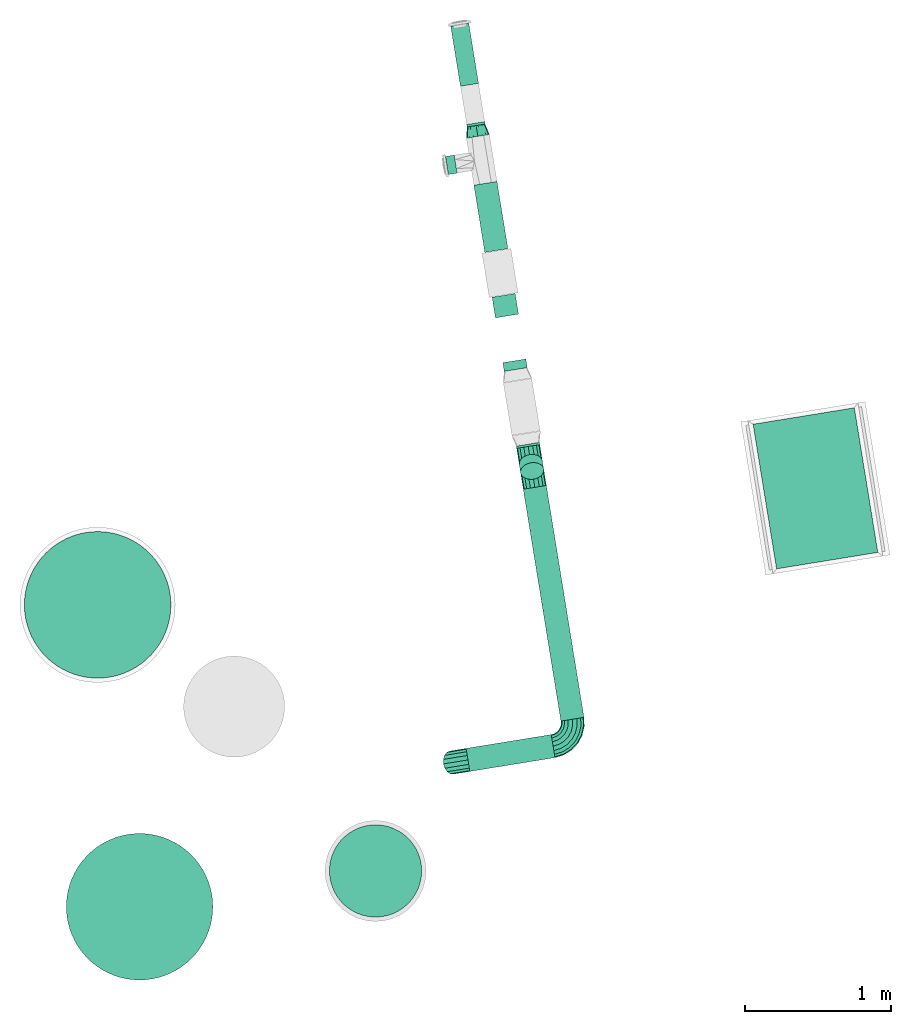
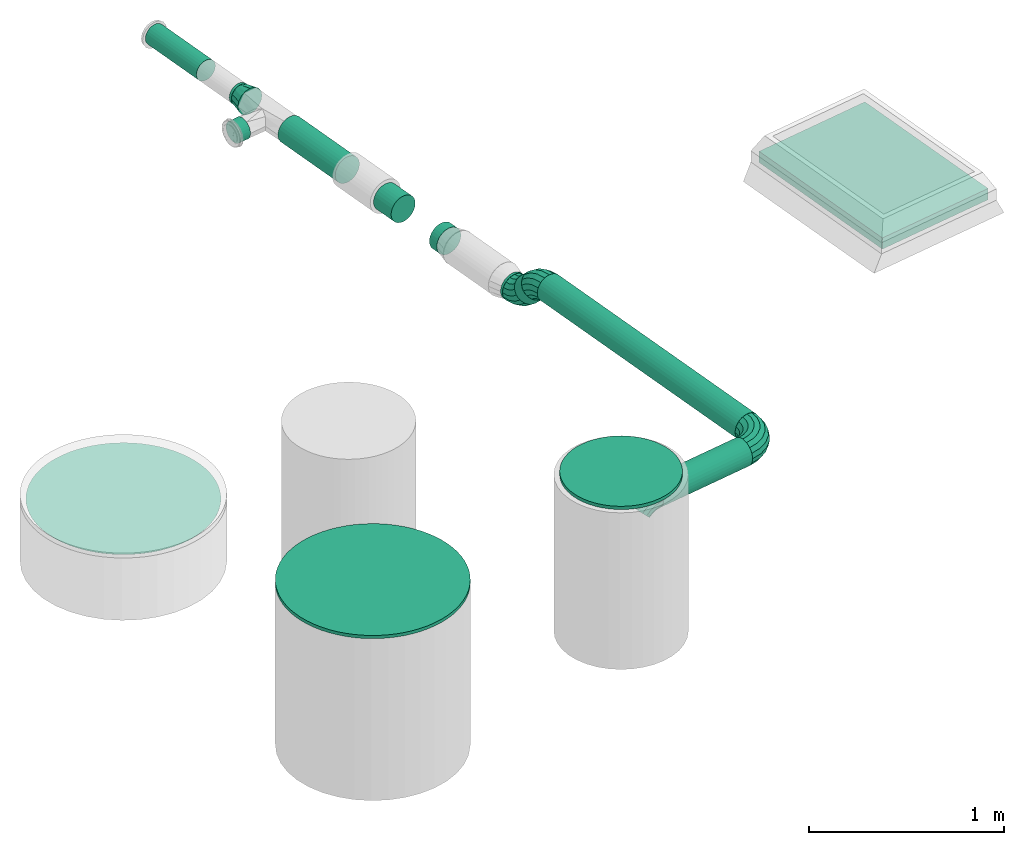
# One storey, part 3 of 6: 11 flow segments, 8 flow fittings.
"""IFC2X3 building model written with IfcOpenShell, lengths in millimetres."""

from ifc_helpers import new_model, entity, si_unit, converted_unit, derived_unit, direction, frame, frame_2d, origin, origin_with_axes, origin_2d_with_axis, place, context, subcontext, project, spatial, rectangle, circle, extrude, faceted_brep, source, transform, mapped, material, type_object, element, save


model = new_model("IFC2X3")

# Units and contexts
plan_context = context("Plan", 3, precision=1e-05, world=origin_with_axes())
model_context = context("Model", 3, precision=0.01, world=origin(), true_north=direction((6.12323399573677e-17, 1.0)))
body_context = subcontext(model_context, "Body", "Model", "MODEL_VIEW")
ifc_project = project(units=[converted_unit("PLANEANGLEUNIT", "DEGREE", entity("IfcPositiveLengthMeasure", 0.0174532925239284), si_unit("PLANEANGLEUNIT", "RADIAN"), dimensions=[0, 0, 0, 0, 0, 0, 0]), si_unit("AREAUNIT", "SQUARE_METRE"), si_unit("LENGTHUNIT", "METRE", prefix="MILLI"), si_unit("MASSUNIT", "GRAM", prefix="KILO"), si_unit("POWERUNIT", "WATT"), si_unit("PRESSUREUNIT", "PASCAL", prefix="KILO"), si_unit("FORCEUNIT", "NEWTON", prefix="KILO"), si_unit("ELECTRICVOLTAGEUNIT", "VOLT"), si_unit("ELECTRICCURRENTUNIT", "AMPERE"), si_unit("THERMODYNAMICTEMPERATUREUNIT", "DEGREE_CELSIUS"), si_unit("TIMEUNIT", "SECOND"), si_unit("VOLUMEUNIT", "CUBIC_METRE"), derived_unit("LINEARVELOCITYUNIT", [(si_unit("LENGTHUNIT", "METRE"), 1), (si_unit("TIMEUNIT", "SECOND"), -1)]), derived_unit("VOLUMETRICFLOWRATEUNIT", [(si_unit("VOLUMEUNIT", "CUBIC_METRE"), 1), (si_unit("TIMEUNIT", "SECOND"), -1)]), derived_unit("THERMALTRANSMITTANCEUNIT", [(si_unit("POWERUNIT", "WATT"), 1), (si_unit("THERMODYNAMICTEMPERATUREUNIT", "KELVIN"), -1), (si_unit("AREAUNIT", "SQUARE_METRE"), -1)]), derived_unit("SOUNDPRESSUREUNIT", [(si_unit("PRESSUREUNIT", "PASCAL"), 1)])], contexts=[model_context, plan_context])

# Site, building, storey
site_placement = place(None, frame((-0.00071070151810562, 0.00438415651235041, 0.0), z_axis=(0.0, 0.0, 1.0), x_axis=(-0.160236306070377, 0.987078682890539, 0.0)))
site = spatial("IfcSite", under=ifc_project, at=site_placement, Name="Default", CompositionType="ELEMENT")
building_placement = place(site_placement, origin_with_axes())
building = spatial("IfcBuilding", under=site, at=building_placement, CompositionType="ELEMENT")
storey_placement = place(building_placement, frame((0.0, 0.0, 55630.0), z_axis=(0.0, 0.0, 1.0), x_axis=(1.0, 0.0, 0.0)))
storey = spatial("IfcBuildingStorey", under=building, at=storey_placement, Name="Nivå E", CompositionType="ELEMENT", Elevation=55630.0)

# Flow fittings
ifc_material_1 = material(Name="DF_Material1")
duct_fitting_type_1 = type_object("IfcDuctFittingType", Name="Endcap 5521:Lindab EPF", PredefinedType="NOTDEFINED", material=ifc_material_1)
shared_shape_1 = source(origin(), body_context, "Body", "SweptSolid", [
    extrude(circle(Radius=500.000000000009, at=frame_2d((-1.86584362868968e-12, -1.83319390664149e-12), x_axis=(1.0, 0.0))), frame((0.0, 0.0, 0.0), z_axis=(1.0, 0.0, 0.0), x_axis=(0.0, 1.0, 0.0)), (0.0, 0.0, 1.0), 0.800000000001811),
])
flow_fitting_1_placement = place(storey_placement, frame((765967.619644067, -501688.383412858, 2760.0), z_axis=(0.0, 1.0, 0.0), x_axis=(0.0, 0.0, 1.0)))
element("IfcFlowFitting", 1, at=flow_fitting_1_placement, inside=storey, type_object=duct_fitting_type_1, material=ifc_material_1, Name="Endcap 5521:Lindab EPF", ObjectType="Endcap 5521:Lindab EPF", context=body_context, shape_type="MappedRepresentation", body=[
    mapped(shared_shape_1, transform((0.0, 0.0, 0.0), scale=1.0)),
])
ifc_material_2 = material(Name="<Unnamed>")
duct_fitting_type_2 = type_object("IfcDuctFittingType", Name="magicirc_joint_1:magicirc_joint_001", PredefinedType="NOTDEFINED", material=ifc_material_2)
shared_shape_2 = source(origin(), body_context, "Body", "SweptSolid", [
    extrude(circle(Radius=315.0, at=frame_2d((1.34514652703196e-15, -1.48811324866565e-12), x_axis=(1.0, 0.0))), frame((0.0, 0.0, 0.0), z_axis=(1.0, 0.0, 0.0), x_axis=(0.0, 1.0, 0.0)), (0.0, 0.0, 1.0), 20.0000000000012),
])
flow_fitting_2_placement = place(storey_placement, frame((763870.86087582, -503270.00861507, 3350.0), z_axis=(0.0, 1.0, 0.0), x_axis=(0.0, 0.0, 1.0)))
element("IfcFlowFitting", 2, at=flow_fitting_2_placement, inside=storey, type_object=duct_fitting_type_2, material=ifc_material_2, Name="magicirc_joint_1:magicirc_joint_001", ObjectType="magicirc_joint_1:magicirc_joint_001", context=body_context, shape_type="MappedRepresentation", body=[
    mapped(shared_shape_2, transform((0.0, 0.0, 0.0), scale=1.0)),
])
duct_fitting_type_3 = type_object("IfcDuctFittingType", Name="magicirc_joint_1:magicirc_joint_001", PredefinedType="NOTDEFINED", material=ifc_material_2)
shared_shape_3 = source(origin(), body_context, "Body", "SweptSolid", [
    extrude(circle(Radius=500.0, at=frame_2d((1.34514652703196e-15, -2.47310682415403e-12), x_axis=(1.0, 0.0))), frame((0.0, 0.0, 0.0), z_axis=(1.0, 0.0, 0.0), x_axis=(0.0, 1.0, 0.0)), (0.0, 0.0, 1.0), 20.0000000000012),
])
flow_fitting_3_placement = place(storey_placement, frame((763887.620029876, -501640.72759467, 3383.69895843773), z_axis=(-3.92134000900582e-17, -0.999999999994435, 3.33613595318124e-06), x_axis=(-2.16724724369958e-05, 3.33613595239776e-06, 0.999999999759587)))
element("IfcFlowFitting", 3, at=flow_fitting_3_placement, inside=storey, type_object=duct_fitting_type_3, material=ifc_material_2, Name="magicirc_joint_1:magicirc_joint_001", ObjectType="magicirc_joint_1:magicirc_joint_001", context=body_context, shape_type="MappedRepresentation", body=[
    mapped(shared_shape_3, transform((0.0, 0.0, 0.0), scale=1.0)),
])
duct_fitting_type_4 = type_object("IfcDuctFittingType", Name="magicirc_elbow_full_radius_1:magicirc_elbow_full_radius_001", PredefinedType="NOTDEFINED", material=ifc_material_2)
shared_shape_4 = source(origin(), body_context, "Body", "Brep", [
    faceted_brep([(-4.15759915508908, -71.8221983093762, 0.0), (-5.73371329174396, -65.9400602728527, 30.6146745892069), (-66.274169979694, -73.910362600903, 30.6146745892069), (-66.274169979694, -80.0, 0.0), (-10.2221066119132, -49.1891483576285, 56.5685424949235), (-66.274169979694, -56.568542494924, 56.5685424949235), (-16.9394619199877, -24.119637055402, 73.9103626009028), (-66.2741699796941, -30.6146745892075, 73.9103626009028), (-24.8631227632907, 5.45186779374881, 80.0), (-66.2741699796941, 0.0, 80.0), (-32.7867836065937, 35.0233726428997, 73.910362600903), (-66.2741699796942, 30.6146745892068, 73.910362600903), (-39.5041389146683, 60.0928839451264, 56.568542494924), (-66.2741699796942, 56.5685424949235, 56.568542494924), (-43.9925322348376, 76.8437958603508, 30.6146745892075), (-66.2741699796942, 73.9103626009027, 30.6146745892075), (-45.5686463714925, 82.7259338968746, 0.0), (-66.2741699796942, 80.0, 0.0), (-43.9925322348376, 76.8437958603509, -30.6146745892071), (-66.2741699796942, 73.9103626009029, -30.6146745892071), (-39.5041389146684, 60.0928839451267, -56.5685424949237), (-66.2741699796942, 56.5685424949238, -56.5685424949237), (-32.7867836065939, 35.0233726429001, -73.9103626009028), (-66.2741699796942, 30.6146745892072, -73.9103626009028), (-24.8631227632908, 5.45186779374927, -80.0), (-66.2741699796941, 0.0, -80.0), (-16.9394619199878, -24.1196370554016, -73.9103626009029), (-66.2741699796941, -30.614674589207, -73.9103626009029), (-10.2221066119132, -49.1891483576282, -56.5685424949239), (-66.274169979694, -56.5685424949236, -56.5685424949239), (-5.73371329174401, -65.9400602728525, -30.6146745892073), (-66.274169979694, -73.9103626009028, -30.6146745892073), (53.7258300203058, -47.846096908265, 0.0), (50.6810113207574, -42.5723162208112, 30.6146745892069), (42.0101012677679, -27.5538594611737, 56.5685424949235), (29.0331673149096, -5.07715052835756, 73.9103626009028), (13.725830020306, 21.4359353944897, 80.0), (-1.58150727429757, 47.949021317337, 73.910362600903), (-14.5584412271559, 70.4257302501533, 56.568542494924), (-23.2293512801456, 85.444187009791, 30.6146745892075), (-26.2741699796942, 90.717967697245, 0.0), (-23.2293512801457, 85.4441870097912, -30.6146745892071), (-14.5584412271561, 70.4257302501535, -56.5685424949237), (-1.58150727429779, 47.9490213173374, -73.9103626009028), (13.7258300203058, 21.4359353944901, -80.0), (29.0331673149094, -5.07715052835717, -73.9103626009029), (42.0101012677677, -27.5538594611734, -56.5685424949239), (50.6810113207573, -42.5723162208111, -30.6146745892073), (103.431457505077, -9.70562748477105, 0.0), (99.1254336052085, -5.3996035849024, 30.6146745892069), (86.8629150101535, 6.86291501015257, 56.5685424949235), (68.5107590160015, 25.2150710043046, 73.9103626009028), (46.8629150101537, 46.8629150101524, 80.0), (25.2150710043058, 68.5107590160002, 73.910362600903), (6.86291501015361, 86.8629150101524, 56.568542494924), (-5.39960358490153, 99.1254336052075, 30.6146745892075), (-9.70562748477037, 103.431457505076, 0.0), (-5.39960358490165, 99.1254336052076, -30.6146745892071), (6.86291501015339, 86.8629150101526, -56.5685424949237), (25.2150710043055, 68.5107590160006, -73.9103626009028), (46.8629150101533, 46.8629150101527, -80.0), (68.5107590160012, 25.2150710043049, -73.9103626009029), (86.8629150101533, 6.86291501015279, -56.5685424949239), (99.1254336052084, -5.39960358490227, -30.6146745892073)], [[[0, 1, 2, 3]], [[1, 4, 5, 2]], [[4, 6, 7, 5]], [[6, 8, 9, 7]], [[8, 10, 11, 9]], [[10, 12, 13, 11]], [[12, 14, 15, 13]], [[14, 16, 17, 15]], [[16, 18, 19, 17]], [[18, 20, 21, 19]], [[20, 22, 23, 21]], [[22, 24, 25, 23]], [[24, 26, 27, 25]], [[26, 28, 29, 27]], [[28, 30, 31, 29]], [[30, 0, 3, 31]], [[32, 33, 1, 0]], [[33, 34, 4, 1]], [[34, 35, 6, 4]], [[35, 36, 8, 6]], [[36, 37, 10, 8]], [[37, 38, 12, 10]], [[38, 39, 14, 12]], [[39, 40, 16, 14]], [[40, 41, 18, 16]], [[41, 42, 20, 18]], [[42, 43, 22, 20]], [[43, 44, 24, 22]], [[44, 45, 26, 24]], [[45, 46, 28, 26]], [[46, 47, 30, 28]], [[47, 32, 0, 30]], [[48, 49, 33, 32]], [[49, 50, 34, 33]], [[50, 51, 35, 34]], [[51, 52, 36, 35]], [[52, 53, 37, 36]], [[53, 54, 38, 37]], [[54, 55, 39, 38]], [[55, 56, 40, 39]], [[56, 57, 41, 40]], [[57, 58, 42, 41]], [[58, 59, 43, 42]], [[59, 60, 44, 43]], [[60, 61, 45, 44]], [[61, 62, 46, 45]], [[62, 63, 47, 46]], [[63, 48, 32, 47]], [[3, 2, 5, 7, 9, 11, 13, 15, 17, 19, 21, 23, 25, 27, 29, 31]], [[63, 62, 61, 60, 59, 58, 57, 56, 55, 54, 53, 52, 51, 50, 49, 48]]]),
])
for number, where, z_axis, x_axis, name in (
    (4, (766497.619641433, -504762.771937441, 2400.0), (-1.56033116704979e-08, 1.0, -1.56033116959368e-08), (-1.0, -1.56033116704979e-08, 0.0), "magicirc_elbow_full_radius_1:magicirc_elbow_full_radius_001"),
    (5, (766347.619641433, -504762.77193699, 2550.0), (-2.94392336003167e-17, -1.0, 9.81307786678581e-18), (-0.707106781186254, 2.77555756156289e-17, 0.707106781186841), "magicirc_elbow_full_radius_1:magicirc_elbow_full_radius_001"),
    (6, (764517.619638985, -503947.771932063, 2550.0), (-1.0, 0.0, 0.0), (0.0, 1.0, 0.0), "magicirc_elbow_full_radius_1:magicirc_elbow_full_radius_001"),
):
    element("IfcFlowFitting", number, at=place(storey_placement, frame(where, z_axis=z_axis, x_axis=x_axis)), inside=storey, type_object=duct_fitting_type_4, material=ifc_material_2, Name=name, ObjectType="magicirc_elbow_full_radius_1:magicirc_elbow_full_radius_001", context=body_context, shape_type="MappedRepresentation", body=[
        mapped(shared_shape_4, transform((0.0, 0.0, 0.0), scale=1.0)),
    ])
duct_fitting_type_5 = type_object("IfcDuctFittingType", Name="magicirc_elbow_full_radius_1:magicirc_elbow_full_radius_001", PredefinedType="NOTDEFINED", material=ifc_material_2)
shared_shape_5 = source(origin(), body_context, "Body", "Brep", [
    faceted_brep([(-97.8834291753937, -71.8221983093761, 0.0), (-99.4595433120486, -65.9400602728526, 30.6146745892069), (-160.0, -73.910362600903, 30.6146745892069), (-160.0, -80.0, 0.0), (-103.947936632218, -49.1891483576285, 56.5685424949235), (-160.0, -56.568542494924, 56.5685424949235), (-110.665291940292, -24.119637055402, 73.9103626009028), (-160.0, -30.6146745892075, 73.9103626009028), (-118.588952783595, 5.45186779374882, 80.0), (-160.0, 0.0, 80.0), (-126.512613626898, 35.0233726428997, 73.910362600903), (-160.0, 30.6146745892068, 73.910362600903), (-133.229968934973, 60.0928839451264, 56.568542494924), (-160.0, 56.5685424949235, 56.568542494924), (-137.718362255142, 76.8437958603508, 30.6146745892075), (-160.0, 73.9103626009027, 30.6146745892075), (-139.294476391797, 82.7259338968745, 0.0), (-160.0, 80.0, 0.0), (-137.718362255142, 76.8437958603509, -30.6146745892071), (-160.0, 73.9103626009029, -30.6146745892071), (-133.229968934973, 60.0928839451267, -56.5685424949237), (-160.0, 56.5685424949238, -56.5685424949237), (-126.512613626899, 35.0233726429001, -73.9103626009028), (-160.0, 30.6146745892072, -73.9103626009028), (-118.588952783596, 5.45186779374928, -80.0), (-160.0, 0.0, -80.0), (-110.665291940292, -24.1196370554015, -73.9103626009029), (-160.0, -30.614674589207, -73.9103626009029), (-103.947936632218, -49.1891483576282, -56.5685424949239), (-160.0, -56.5685424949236, -56.5685424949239), (-99.4595433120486, -65.9400602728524, -30.6146745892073), (-160.0, -73.9103626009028, -30.6146745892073), (-40.0, -47.8460969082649, 0.0), (-43.0448186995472, -42.5723162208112, 30.6146745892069), (-51.7157287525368, -27.5538594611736, 56.5685424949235), (-64.6926627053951, -5.0771505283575, 73.9103626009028), (-80.0, 21.4359353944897, 80.0), (-95.3073372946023, 47.949021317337, 73.910362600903), (-108.284271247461, 70.4257302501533, 56.568542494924), (-116.95518130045, 85.444187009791, 30.6146745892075), (-120.0, 90.717967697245, 0.0), (-116.95518130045, 85.4441870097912, -30.6146745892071), (-108.284271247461, 70.4257302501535, -56.5685424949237), (-95.3073372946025, 47.9490213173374, -73.9103626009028), (-80.0, 21.4359353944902, -80.0), (-64.6926627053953, -5.07715052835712, -73.9103626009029), (-51.7157287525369, -27.5538594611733, -56.5685424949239), (-43.0448186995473, -42.572316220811, -30.6146745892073), (9.70562748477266, -9.70562748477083, 0.0), (5.39960358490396, -5.39960358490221, 30.6146745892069), (-6.86291501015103, 6.86291501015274, 56.5685424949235), (-25.2150710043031, 25.2150710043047, 73.9103626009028), (-46.862915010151, 46.8629150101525, 80.0), (-68.5107590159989, 68.5107590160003, 73.910362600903), (-86.8629150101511, 86.8629150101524, 56.568542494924), (-99.1254336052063, 99.1254336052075, 30.6146745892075), (-103.431457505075, 103.431457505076, 0.0), (-99.1254336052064, 99.1254336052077, -30.6146745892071), (-86.8629150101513, 86.8629150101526, -56.5685424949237), (-68.5107590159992, 68.5107590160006, -73.9103626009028), (-46.8629150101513, 46.8629150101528, -80.0), (-25.2150710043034, 25.215071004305, -73.9103626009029), (-6.86291501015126, 6.86291501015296, -56.5685424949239), (5.39960358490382, -5.39960358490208, -30.6146745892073), (47.8460969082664, 40.0, 0.0), (42.5723162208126, 43.0448186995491, 30.6146745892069), (27.553859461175, 51.7157287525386, 56.5685424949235), (5.07715052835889, 64.6926627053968, 73.9103626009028), (-21.4359353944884, 80.0, 80.0), (-47.9490213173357, 95.3073372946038, 73.910362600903), (-70.4257302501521, 108.284271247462, 56.568542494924), (-85.4441870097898, 116.955181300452, 30.6146745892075), (-90.7179676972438, 120.0, 0.0), (-85.44418700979, 116.955181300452, -30.6146745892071), (-70.4257302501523, 108.284271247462, -56.5685424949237), (-47.9490213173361, 95.307337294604, -73.9103626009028), (-21.4359353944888, 80.0, -80.0), (5.07715052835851, 64.692662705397, -73.9103626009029), (27.5538594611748, 51.7157287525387, -56.5685424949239), (42.5723162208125, 43.0448186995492, -30.6146745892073), (71.8221983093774, 97.8834291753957, 0.0), (65.9400602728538, 99.4595433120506, 30.6146745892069), (49.1891483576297, 103.94793663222, 56.5685424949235), (24.1196370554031, 110.665291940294, 73.9103626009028), (-5.45186779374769, 118.588952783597, 80.0), (-35.0233726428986, 126.5126136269, 73.910362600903), (-60.0928839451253, 133.229968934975, 56.568542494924), (-76.8437958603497, 137.718362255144, 30.6146745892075), (-82.7259338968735, 139.294476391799, 0.0), (-76.8437958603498, 137.718362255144, -30.6146745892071), (-60.0928839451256, 133.229968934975, -56.5685424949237), (-35.023372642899, 126.5126136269, -73.9103626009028), (-5.45186779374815, 118.588952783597, -80.0), (24.1196370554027, 110.665291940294, -73.9103626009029), (49.1891483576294, 103.94793663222, -56.5685424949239), (65.9400602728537, 99.4595433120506, -30.6146745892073), (80.0, 160.0, 0.0), (73.9103626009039, 160.0, 30.6146745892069), (56.5685424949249, 160.0, 56.5685424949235), (30.6146745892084, 160.0, 73.9103626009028), (0.0, 160.0, 80.0), (-30.6146745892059, 160.0, 73.910362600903), (-56.5685424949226, 160.0, 56.568542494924), (-73.9103626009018, 160.0, 30.6146745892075), (-80.0, 160.0, 0.0), (-73.910362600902, 160.0, -30.6146745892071), (-56.5685424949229, 160.0, -56.5685424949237), (-30.6146745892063, 160.0, -73.9103626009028), (0.0, 160.0, -80.0), (30.6146745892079, 160.0, -73.9103626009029), (56.5685424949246, 160.0, -56.5685424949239), (73.9103626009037, 160.0, -30.6146745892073)], [[[0, 1, 2, 3]], [[1, 4, 5, 2]], [[4, 6, 7, 5]], [[6, 8, 9, 7]], [[8, 10, 11, 9]], [[10, 12, 13, 11]], [[12, 14, 15, 13]], [[14, 16, 17, 15]], [[16, 18, 19, 17]], [[18, 20, 21, 19]], [[20, 22, 23, 21]], [[22, 24, 25, 23]], [[24, 26, 27, 25]], [[26, 28, 29, 27]], [[28, 30, 31, 29]], [[30, 0, 3, 31]], [[32, 33, 1, 0]], [[33, 34, 4, 1]], [[34, 35, 6, 4]], [[35, 36, 8, 6]], [[36, 37, 10, 8]], [[37, 38, 12, 10]], [[38, 39, 14, 12]], [[39, 40, 16, 14]], [[40, 41, 18, 16]], [[41, 42, 20, 18]], [[42, 43, 22, 20]], [[43, 44, 24, 22]], [[44, 45, 26, 24]], [[45, 46, 28, 26]], [[46, 47, 30, 28]], [[47, 32, 0, 30]], [[48, 49, 33, 32]], [[49, 50, 34, 33]], [[50, 51, 35, 34]], [[51, 52, 36, 35]], [[52, 53, 37, 36]], [[53, 54, 38, 37]], [[54, 55, 39, 38]], [[55, 56, 40, 39]], [[56, 57, 41, 40]], [[57, 58, 42, 41]], [[58, 59, 43, 42]], [[59, 60, 44, 43]], [[60, 61, 45, 44]], [[61, 62, 46, 45]], [[62, 63, 47, 46]], [[63, 48, 32, 47]], [[64, 65, 49, 48]], [[65, 66, 50, 49]], [[66, 67, 51, 50]], [[67, 68, 52, 51]], [[68, 69, 53, 52]], [[69, 70, 54, 53]], [[70, 71, 55, 54]], [[71, 72, 56, 55]], [[72, 73, 57, 56]], [[73, 74, 58, 57]], [[74, 75, 59, 58]], [[75, 76, 60, 59]], [[76, 77, 61, 60]], [[77, 78, 62, 61]], [[78, 79, 63, 62]], [[79, 64, 48, 63]], [[80, 81, 65, 64]], [[81, 82, 66, 65]], [[82, 83, 67, 66]], [[83, 84, 68, 67]], [[84, 85, 69, 68]], [[85, 86, 70, 69]], [[86, 87, 71, 70]], [[87, 88, 72, 71]], [[88, 89, 73, 72]], [[89, 90, 74, 73]], [[90, 91, 75, 74]], [[91, 92, 76, 75]], [[92, 93, 77, 76]], [[93, 94, 78, 77]], [[94, 95, 79, 78]], [[95, 80, 64, 79]], [[96, 97, 81, 80]], [[97, 98, 82, 81]], [[98, 99, 83, 82]], [[99, 100, 84, 83]], [[100, 101, 85, 84]], [[101, 102, 86, 85]], [[102, 103, 87, 86]], [[103, 104, 88, 87]], [[104, 105, 89, 88]], [[105, 106, 90, 89]], [[106, 107, 91, 90]], [[107, 108, 92, 91]], [[108, 109, 93, 92]], [[109, 110, 94, 93]], [[110, 111, 95, 94]], [[111, 96, 80, 95]], [[3, 2, 5, 7, 9, 11, 13, 15, 17, 19, 21, 23, 25, 27, 29, 31]], [[111, 110, 109, 108, 107, 106, 105, 104, 103, 102, 101, 100, 99, 98, 97, 96]]]),
])
flow_fitting_4_placement = place(storey_placement, frame((764517.619640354, -504762.771932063, 2550.0), z_axis=(0.0, 0.0, 1.0), x_axis=(0.0, -1.0, 0.0)))
element("IfcFlowFitting", 7, at=flow_fitting_4_placement, inside=storey, type_object=duct_fitting_type_5, material=ifc_material_2, Name="magicirc_elbow_full_radius_1:magicirc_elbow_full_radius_001", ObjectType="magicirc_elbow_full_radius_1:magicirc_elbow_full_radius_001", context=body_context, shape_type="MappedRepresentation", body=[
    mapped(shared_shape_5, transform((0.0, 0.0, 0.0), scale=1.0)),
])
ifc_material_3 = material(Name="Material_Duct")
duct_fitting_type_6 = type_object("IfcDuctFittingType", Name="magicirc_reduction_001:magicirc_reduction_001", PredefinedType="NOTDEFINED", material=ifc_material_3)
shared_shape_6 = source(origin(), body_context, "Body", "Brep", [
    faceted_brep([(75.0, -62.4999999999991, 0.0), (75.0, -59.4052771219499, -13.5588668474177), (75.0, -56.3105542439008, -27.1177336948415), (75.0, -47.6393334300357, -37.991100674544), (75.0, -38.9681126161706, -48.8644676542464), (75.0, -26.4378354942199, -54.8987310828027), (75.0, -13.9075583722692, -60.9329945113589), (75.0, 0.0, -60.9329945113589), (75.0, 13.9075583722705, -60.9329945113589), (75.0, 26.4378354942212, -54.8987310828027), (75.0, 38.9681126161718, -48.8644676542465), (75.0, 47.6393334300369, -37.9911006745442), (75.0, 56.310554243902, -27.1177336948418), (75.0, 59.4052771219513, -13.5588668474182), (75.0, 62.5000000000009, 0.0), (75.0, 59.4052771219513, 13.5588668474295), (75.0, 56.3105542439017, 27.117733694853), (75.0, 47.6393334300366, 37.9911006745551), (75.0, 38.9681126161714, 48.8644676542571), (75.0, 26.4378354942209, 54.898731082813), (75.0, 13.9075583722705, 60.9329945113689), (75.0, 0.0, 60.932994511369), (75.0, -13.9075583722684, 60.9329945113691), (75.0, -26.4378354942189, 54.8987310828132), (75.0, -38.9681126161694, 48.8644676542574), (75.0, -47.6393334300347, 37.9911006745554), (75.0, -56.3105542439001, 27.1177336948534), (75.0, -59.4052771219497, 13.5588668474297), (0.0, 80.0, 0.0), (0.0, 76.9551813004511, -15.3073372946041), (0.0, 73.9103626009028, -30.6146745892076), (0.0, 65.2394525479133, -43.591608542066), (0.0, 56.5685424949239, -56.5685424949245), (0.0, 43.5916085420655, -65.2394525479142), (0.0, 30.6146745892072, -73.9103626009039), (0.0, 15.3073372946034, -76.9551813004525), (0.0, 0.0, -80.0), (0.0, -15.3073372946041, -76.9551813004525), (0.0, -30.6146745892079, -73.9103626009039), (0.0, -43.5916085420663, -65.2394525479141), (0.0, -56.5685424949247, -56.5685424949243), (0.0, -65.2394525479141, -43.5916085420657), (0.0, -73.9103626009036, -30.6146745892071), (0.0, -76.9551813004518, -15.3073372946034), (0.0, -80.0, 0.0), (0.0, -76.9551813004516, 15.3073372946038), (0.0, -73.9103626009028, 30.6146745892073), (0.0, -65.239452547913, 43.5916085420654), (0.0, -56.5685424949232, 56.5685424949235), (0.0, -43.5916085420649, 65.2394525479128), (0.0, -30.6146745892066, 73.9103626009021), (0.0, -15.3073372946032, 76.9551813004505), (0.0, 0.0, 80.0), (0.0, 15.3073372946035, 76.9551813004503), (0.0, 30.6146745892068, 73.9103626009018), (0.0, 43.591608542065, 65.2394525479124), (0.0, 56.5685424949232, 56.5685424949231), (0.0, 65.2394525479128, 43.591608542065), (0.0, 73.9103626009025, 30.6146745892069), (0.0, 76.9551813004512, 15.3073372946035)], [[[0, 1, 2, 3, 4, 5, 6, 7, 8, 9, 10, 11, 12, 13, 14, 15, 16, 17, 18, 19, 20, 21, 22, 23, 24, 25, 26, 27]], [[28, 29, 30, 31, 32, 33, 34, 35, 36, 37, 38, 39, 40, 41, 42, 43, 44, 45, 46, 47, 48, 49, 50, 51, 52, 53, 54, 55, 56, 57, 58, 59]], [[12, 30, 13]], [[6, 38, 37]], [[11, 32, 31]], [[40, 4, 3]], [[33, 32, 10]], [[31, 30, 12]], [[13, 30, 29]], [[9, 33, 10]], [[35, 34, 8]], [[35, 8, 7]], [[6, 37, 7]], [[12, 11, 31]], [[0, 43, 1]], [[34, 9, 8]], [[39, 5, 4]], [[43, 42, 1]], [[43, 0, 44]], [[33, 9, 34]], [[41, 40, 3]], [[35, 7, 36]], [[14, 13, 29]], [[6, 5, 38]], [[11, 10, 32]], [[2, 41, 3]], [[42, 2, 1]], [[14, 29, 28]], [[38, 5, 39]], [[41, 2, 42]], [[7, 37, 36]], [[4, 40, 39]], [[26, 46, 27]], [[20, 54, 53]], [[25, 48, 47]], [[56, 18, 17]], [[49, 48, 24]], [[47, 46, 26]], [[27, 46, 45]], [[23, 49, 24]], [[51, 50, 22]], [[51, 22, 21]], [[20, 53, 21]], [[26, 25, 47]], [[14, 59, 15]], [[50, 23, 22]], [[55, 19, 18]], [[59, 58, 15]], [[59, 14, 28]], [[49, 23, 50]], [[57, 56, 17]], [[51, 21, 52]], [[0, 27, 45]], [[20, 19, 54]], [[25, 24, 48]], [[16, 57, 17]], [[58, 16, 15]], [[0, 45, 44]], [[54, 19, 55]], [[57, 16, 58]], [[21, 53, 52]], [[18, 56, 55]]]),
])
flow_fitting_5_placement = place(storey_placement, frame((768708.480077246, -504762.771931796, 2400.0), z_axis=(0.0, 0.0, 1.0), x_axis=(1.0, 0.0, 0.0)))
element("IfcFlowFitting", 8, at=flow_fitting_5_placement, inside=storey, type_object=duct_fitting_type_6, material=ifc_material_3, Name="magicirc_reduction_001:magicirc_reduction_001", ObjectType="magicirc_reduction_001:magicirc_reduction_001", context=body_context, shape_type="MappedRepresentation", body=[
    mapped(shared_shape_6, transform((0.0, 0.0, 0.0), scale=1.0)),
])

# Flow segments
duct_segment_type_1 = type_object("IfcDuctSegmentType", Name="Round Duct:KK001T - Spiro kanaler, Forsinket stål", PredefinedType="NOTDEFINED")
flow_segment_1_placement = place(storey_placement, origin_with_axes())
element("IfcFlowSegment", 9, at=flow_segment_1_placement, inside=storey, type_object=duct_segment_type_1, Name="Round Duct:KK001T - Spiro kanaler, Forsinket stål", ObjectType="Round Duct:KK001T - Spiro kanaler, Forsinket stål", context=body_context, shape_type="SweptSolid", body=[
    extrude(circle(Radius=80.0, at=origin_2d_with_axis()), frame((766563.893811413, -504762.771936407, 2400.0), z_axis=(1.0, 1.73829490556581e-08, 0.0), x_axis=(-1.73829490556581e-08, 1.0, 0.0)), (0.0, 0.0, 1.0), 15.2258429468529),
])
flow_segment_2_placement = place(storey_placement, origin_with_axes())
element("IfcFlowSegment", 10, at=flow_segment_2_placement, inside=storey, type_object=duct_segment_type_1, Name="Round Duct:KK001T - Spiro kanaler, Forsinket stål", ObjectType="Round Duct:KK001T - Spiro kanaler, Forsinket stål", context=body_context, shape_type="SweptSolid", body=[
    extrude(circle(Radius=80.0000000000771, at=frame_2d((-6.93034963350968e-11, -2.45024863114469e-11), x_axis=(1.0, 0.0))), frame((766450.756726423, -504762.771937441, 2446.86291501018), z_axis=(-0.707106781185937, 5.67278495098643e-09, 0.707106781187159), x_axis=(6.29102487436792e-09, 1.0, -1.73150453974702e-09)), (0.0, 0.0, 1.0), 79.5836943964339),
])
flow_segment_3_placement = place(storey_placement, origin_with_axes())
element("IfcFlowSegment", 11, at=flow_segment_3_placement, inside=storey, type_object=duct_segment_type_1, Name="Round Duct:KK001T - Spiro kanaler, Forsinket stål", ObjectType="Round Duct:KK001T - Spiro kanaler, Forsinket stål", context=body_context, shape_type="SweptSolid", body=[
    extrude(circle(Radius=62.5, at=origin_2d_with_axis()), frame((769065.119644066, -504762.771931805, 2400.0), z_axis=(1.0, 0.0, 0.0), x_axis=(0.0, -1.0, 0.0)), (0.0, 0.0, 1.0), 414.999996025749),
])
flow_segment_4_placement = place(storey_placement, origin_with_axes())
element("IfcFlowSegment", 12, at=flow_segment_4_placement, inside=storey, type_object=duct_segment_type_1, Name="Round Duct:KK001T - Spiro kanaler, Forsinket stål", ObjectType="Round Duct:KK001T - Spiro kanaler, Forsinket stål", context=body_context, shape_type="SweptSolid", body=[
    extrude(circle(Radius=80.0, at=frame_2d((-2.46366998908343e-06, 0.0), x_axis=(1.0, 0.0))), frame((764677.619640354, -504762.771934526, 2550.0), z_axis=(1.0, 0.0, 0.0), x_axis=(0.0, 1.0, 0.0)), (-3.07227310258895e-09, 0.0, 1.0), 1603.72583109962),
])
flow_segment_5_placement = place(storey_placement, origin_with_axes())
element("IfcFlowSegment", 13, at=flow_segment_5_placement, inside=storey, type_object=duct_segment_type_1, Name="Round Duct:KK001T - Spiro kanaler, Forsinket stål", ObjectType="Round Duct:KK001T - Spiro kanaler, Forsinket stål", context=body_context, shape_type="SweptSolid", body=[
    extrude(circle(Radius=80.0, at=origin_2d_with_axis()), frame((764517.619640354, -504602.771932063, 2550.0), z_axis=(0.0, 1.0, 0.0), x_axis=(1.0, 0.0, 0.0)), (-2.32426600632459e-09, 0.0, 1.0), 588.72583002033),
])
flow_segment_6_placement = place(storey_placement, origin_with_axes())
element("IfcFlowSegment", 14, at=flow_segment_6_placement, inside=storey, type_object=duct_segment_type_1, Name="Round Duct:KK001T - Spiro kanaler, Forsinket stål", ObjectType="Round Duct:KK001T - Spiro kanaler, Forsinket stål", context=body_context, shape_type="SweptSolid", body=[
    extrude(circle(Radius=62.5, at=frame_2d((0.0, 8.66293703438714e-12), x_axis=(1.0, 0.0))), frame((768783.480077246, -504762.771931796, 2400.0), z_axis=(1.0, 0.0, 0.0), x_axis=(0.0, -1.0, 0.0)), (0.0, 0.0, 1.0), 16.6395668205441),
])
flow_segment_7_placement = place(storey_placement, origin_with_axes())
element("IfcFlowSegment", 15, at=flow_segment_7_placement, inside=storey, type_object=duct_segment_type_1, Name="Round Duct:KK001T - Spiro kanaler, Forsinket stål", ObjectType="Round Duct:KK001T - Spiro kanaler, Forsinket stål", context=body_context, shape_type="SweptSolid", body=[
    extrude(circle(Radius=62.5, at=frame_2d((0.0, -8.66293703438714e-12), x_axis=(1.0, 0.0))), frame((768545.980077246, -504582.771931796, 2400.0), z_axis=(7.67513120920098e-08, 1.0, 0.0), x_axis=(-1.0, 7.67513120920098e-08, 0.0)), (0.0, 0.0, 1.0), 59.9999999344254),
])
flow_segment_8_placement = place(storey_placement, origin_with_axes())
element("IfcFlowSegment", 16, at=flow_segment_8_placement, inside=storey, type_object=duct_segment_type_1, Name="Round Duct:KK001T - Spiro kanaler, Forsinket stål", ObjectType="Round Duct:KK001T - Spiro kanaler, Forsinket stål", context=body_context, shape_type="SweptSolid", body=[
    extrude(circle(Radius=79.9999999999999, at=origin_2d_with_axis()), frame((767096.11965436, -504762.771927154, 2400.0), z_axis=(1.0, -6.94051628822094e-08, 0.0), x_axis=(-6.94051628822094e-08, -1.0, 0.0)), (0.0, 0.0, 1.0), 59.9999814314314),
])
flow_segment_9_placement = place(storey_placement, origin_with_axes())
element("IfcFlowSegment", 17, at=flow_segment_9_placement, inside=storey, type_object=duct_segment_type_1, Name="Round Duct:KK001T - Spiro kanaler, Forsinket stål", ObjectType="Round Duct:KK001T - Spiro kanaler, Forsinket stål", context=body_context, shape_type="SweptSolid", body=[
    extrude(circle(Radius=79.9999999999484, at=frame_2d((2.83381996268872e-07, 5.19776223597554e-11), x_axis=(1.0, 0.0))), frame((767466.119635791, -504762.771935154, 2400.0), z_axis=(1.0, 3.96935774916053e-09, 0.0), x_axis=(-3.96935774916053e-09, 1.0, 0.0)), (0.0, 0.0, 1.0), 142.762749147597),
])
flow_segment_10_placement = place(storey_placement, origin_with_axes())
element("IfcFlowSegment", 18, at=flow_segment_10_placement, inside=storey, type_object=duct_segment_type_1, Name="Round Duct:KK001T - Spiro kanaler, Forsinket stål", ObjectType="Round Duct:KK001T - Spiro kanaler, Forsinket stål", context=body_context, shape_type="SweptSolid", body=[
    extrude(circle(Radius=79.999999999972, at=frame_2d((1.53722085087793e-06, 2.59888116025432e-11), x_axis=(1.0, 0.0))), frame((767918.882384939, -504762.771933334, 2400.0), z_axis=(1.0, 6.6167513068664e-09, 0.0), x_axis=(-6.6167513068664e-09, 1.0, 0.0)), (0.0, 0.0, 1.0), 464.597692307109),
])
duct_segment_type_2 = type_object("IfcDuctSegmentType", Name="Rectangular Duct:KK002T - Rektangulære, Forsinket stål", PredefinedType="NOTDEFINED")
flow_segment_11_placement = place(storey_placement, origin_with_axes())
element("IfcFlowSegment", 19, at=flow_segment_11_placement, inside=storey, type_object=duct_segment_type_2, Name="Rectangular Duct:KK002T - Rektangulære, Forsinket stål", ObjectType="Rectangular Duct:KK002T - Rektangulære, Forsinket stål", context=body_context, shape_type="SweptSolid", body=[
    extrude(rectangle(XDim=699.99999999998, YDim=1000.00000000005, at=frame_2d((6.9292127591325e-11, 0.0), x_axis=(1.0, 0.0))), frame((765967.619644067, -506652.480498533, 2550.0), z_axis=(0.0, 0.0, 1.0), x_axis=(4.56135811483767e-09, 1.0, 0.0)), (0.0, 0.0, 1.0), 69.9999999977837),
])

save(model, "model.ifc")
